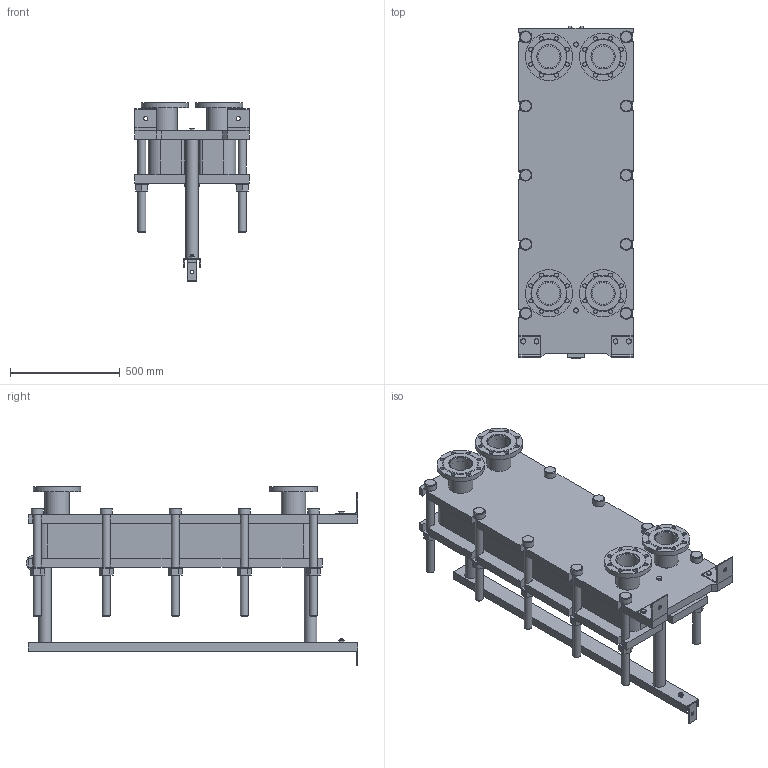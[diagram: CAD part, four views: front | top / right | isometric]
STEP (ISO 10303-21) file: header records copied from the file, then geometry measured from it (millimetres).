
FILE_DESCRIPTION(/* description */ (''),/* implementation_level */ '2;1');
FILE_NAME(/* name */ 'C:\Users\zhuro\Desktop\ENCO\TO\ЭН-04\ЭН-0,5-04-46-1.stp',/* time_stamp */ '2022-06-06T10:48:02+03:00',/* author */ ('zhuro'),/* organization */ (''),/* preprocessor_version */ 'ST-DEVELOPER v18.1',/* originating_system */ 'Autodesk Inventor 2022',/* authorisation */ '');
FILE_SCHEMA (('AUTOMOTIVE_DESIGN { 1 0 10303 214 3 1 1 }'));
Length unit declared in the file: millimetre
Products named in the file (1): ЭН-0,5-04-46-1
Bounding box: 520 x 1510 x 818 mm (x, y, z)
Volume: 147610230.8 mm3; surface area: 7167796.8 mm2
Topology: 45 solids, 45 shells, 668 faces, 1611 edges, 1048 vertices
Faces by surface type: plane 457, cylinder 166, cone 39, torus 6
Full cylindrical faces by diameter (mm): 8 x4, 10 x2, 16 x8, 18 x35, 36 x25, 40 x2, 42 x1, 45 x4, 54 x10, 57 x2, 60 x10, 68 x2, 100 x4, 110 x8, 215 x4
Entity records: 23607 total; most frequent: CARTESIAN_POINT 7348, DIRECTION 3371, ORIENTED_EDGE 3142, EDGE_CURVE 1571, AXIS2_PLACEMENT_3D 1199, VERTEX_POINT 1044, LINE 973, VECTOR 973
